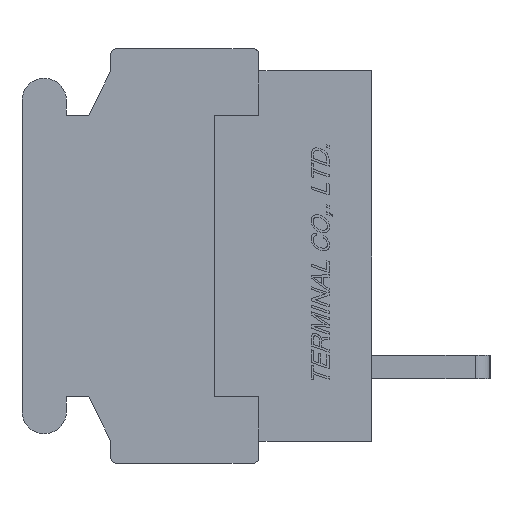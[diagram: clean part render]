
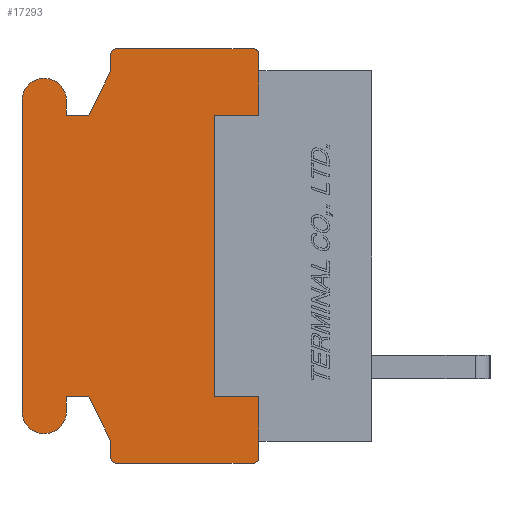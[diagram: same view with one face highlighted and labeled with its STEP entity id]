
A CAD part, left-side view. The second image highlights one B-rep face of the part: STEP entity #17293.
In plain terms, the highlighted planar face has unit normal (-1, 0, 0).
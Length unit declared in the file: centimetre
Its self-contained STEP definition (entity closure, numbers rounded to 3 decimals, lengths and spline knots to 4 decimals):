
#938=CIRCLE('',#29300,0.02);
#939=CIRCLE('',#29304,0.02);
#940=CIRCLE('',#29307,0.02);
#941=CIRCLE('',#29313,0.075);
#942=CIRCLE('',#29316,0.075);
#943=CIRCLE('',#29322,0.02);
#2317=VERTEX_POINT('',#26737);
#2318=VERTEX_POINT('',#26739);
#2319=VERTEX_POINT('',#26743);
#2320=VERTEX_POINT('',#26747);
#2321=VERTEX_POINT('',#26749);
#2322=VERTEX_POINT('',#26753);
#2323=VERTEX_POINT('',#26757);
#2324=VERTEX_POINT('',#26761);
#2325=VERTEX_POINT('',#26765);
#2326=VERTEX_POINT('',#26769);
#2327=VERTEX_POINT('',#26773);
#2328=VERTEX_POINT('',#26777);
#2329=VERTEX_POINT('',#26781);
#2330=VERTEX_POINT('',#26785);
#2331=VERTEX_POINT('',#26789);
#2332=VERTEX_POINT('',#26793);
#2333=VERTEX_POINT('',#26797);
#2334=VERTEX_POINT('',#26801);
#2335=VERTEX_POINT('',#26805);
#2336=VERTEX_POINT('',#26809);
#2337=VERTEX_POINT('',#26815);
#2338=VERTEX_POINT('',#26817);
#2339=VERTEX_POINT('',#26819);
#2340=VERTEX_POINT('',#26821);
#4175=VECTOR('',#21095,1.);
#4177=VECTOR('',#21098,1.);
#4181=VECTOR('',#21107,1.);
#4184=VECTOR('',#21115,1.);
#4186=VECTOR('',#21118,1.);
#4188=VECTOR('',#21121,1.);
#4190=VECTOR('',#21124,1.);
#4193=VECTOR('',#21132,1.);
#4196=VECTOR('',#21140,1.);
#4198=VECTOR('',#21143,1.);
#4200=VECTOR('',#21146,1.);
#4202=VECTOR('',#21149,1.);
#4204=VECTOR('',#21156,1.);
#4205=VECTOR('',#21158,1.);
#4206=VECTOR('',#21159,1.);
#4207=VECTOR('',#21160,1.);
#4208=VECTOR('',#21161,1.);
#4209=VECTOR('',#21162,1.);
#6111=LINE('',#26744,#4175);
#6113=LINE('',#26748,#4177);
#6117=LINE('',#26758,#4181);
#6120=LINE('',#26766,#4184);
#6122=LINE('',#26770,#4186);
#6124=LINE('',#26774,#4188);
#6126=LINE('',#26778,#4190);
#6129=LINE('',#26786,#4193);
#6132=LINE('',#26794,#4196);
#6134=LINE('',#26798,#4198);
#6136=LINE('',#26802,#4200);
#6138=LINE('',#26806,#4202);
#6140=LINE('',#26812,#4204);
#6141=LINE('',#26814,#4205);
#6142=LINE('',#26816,#4206);
#6143=LINE('',#26818,#4207);
#6144=LINE('',#26820,#4208);
#6145=LINE('',#26822,#4209);
#8620=EDGE_CURVE('',#2317,#2318,#938,.T.);
#8623=EDGE_CURVE('',#2319,#2317,#6111,.T.);
#8625=EDGE_CURVE('',#2320,#2321,#6113,.T.);
#8628=EDGE_CURVE('',#2322,#2320,#939,.T.);
#8630=EDGE_CURVE('',#2323,#2322,#6117,.T.);
#8632=EDGE_CURVE('',#2324,#2323,#940,.T.);
#8634=EDGE_CURVE('',#2325,#2324,#6120,.T.);
#8636=EDGE_CURVE('',#2326,#2325,#6122,.T.);
#8638=EDGE_CURVE('',#2327,#2326,#6124,.T.);
#8640=EDGE_CURVE('',#2328,#2327,#6126,.T.);
#8642=EDGE_CURVE('',#2329,#2328,#941,.T.);
#8644=EDGE_CURVE('',#2330,#2329,#6129,.T.);
#8646=EDGE_CURVE('',#2331,#2330,#942,.T.);
#8648=EDGE_CURVE('',#2332,#2331,#6132,.T.);
#8650=EDGE_CURVE('',#2333,#2332,#6134,.T.);
#8652=EDGE_CURVE('',#2334,#2333,#6136,.T.);
#8654=EDGE_CURVE('',#2335,#2334,#6138,.T.);
#8656=EDGE_CURVE('',#2336,#2335,#943,.T.);
#8657=EDGE_CURVE('',#2318,#2336,#6140,.T.);
#8658=EDGE_CURVE('',#2337,#2321,#6141,.T.);
#8659=EDGE_CURVE('',#2319,#2338,#6142,.T.);
#8660=EDGE_CURVE('',#2338,#2339,#6143,.T.);
#8661=EDGE_CURVE('',#2339,#2340,#6144,.T.);
#8662=EDGE_CURVE('',#2340,#2337,#6145,.T.);
#13324=ORIENTED_EDGE('',*,*,#8658,.T.);
#13325=ORIENTED_EDGE('',*,*,#8625,.F.);
#13326=ORIENTED_EDGE('',*,*,#8628,.F.);
#13327=ORIENTED_EDGE('',*,*,#8630,.F.);
#13328=ORIENTED_EDGE('',*,*,#8632,.F.);
#13329=ORIENTED_EDGE('',*,*,#8634,.F.);
#13330=ORIENTED_EDGE('',*,*,#8636,.F.);
#13331=ORIENTED_EDGE('',*,*,#8638,.F.);
#13332=ORIENTED_EDGE('',*,*,#8640,.F.);
#13333=ORIENTED_EDGE('',*,*,#8642,.F.);
#13334=ORIENTED_EDGE('',*,*,#8644,.F.);
#13335=ORIENTED_EDGE('',*,*,#8646,.F.);
#13336=ORIENTED_EDGE('',*,*,#8648,.F.);
#13337=ORIENTED_EDGE('',*,*,#8650,.F.);
#13338=ORIENTED_EDGE('',*,*,#8652,.F.);
#13339=ORIENTED_EDGE('',*,*,#8654,.F.);
#13340=ORIENTED_EDGE('',*,*,#8656,.F.);
#13341=ORIENTED_EDGE('',*,*,#8657,.F.);
#13342=ORIENTED_EDGE('',*,*,#8620,.F.);
#13343=ORIENTED_EDGE('',*,*,#8623,.F.);
#13344=ORIENTED_EDGE('',*,*,#8659,.T.);
#13345=ORIENTED_EDGE('',*,*,#8660,.T.);
#13346=ORIENTED_EDGE('',*,*,#8661,.T.);
#13347=ORIENTED_EDGE('',*,*,#8662,.T.);
#15244=EDGE_LOOP('',(#13324,#13325,#13326,#13327,#13328,#13329,#13330,#13331,
#13332,#13333,#13334,#13335,#13336,#13337,#13338,#13339,#13340,#13341,#13342,
#13343,#13344,#13345,#13346,#13347));
#16296=FACE_BOUND('',#15244,.T.);
#17293=ADVANCED_FACE('',(#16296),#18028,.F.);
#18028=PLANE('',#29324);
#21090=DIRECTION('',(1.,0.,0.));
#21091=DIRECTION('',(0.,0.,-0.02));
#21095=DIRECTION('',(0.,0.,-1.));
#21098=DIRECTION('',(0.,0.,-1.));
#21103=DIRECTION('',(1.,0.,0.));
#21104=DIRECTION('',(0.,0.,-0.02));
#21107=DIRECTION('',(0.,-1.,0.));
#21111=DIRECTION('',(1.,0.,0.));
#21112=DIRECTION('',(0.,0.,-0.02));
#21115=DIRECTION('',(0.,0.,1.));
#21118=DIRECTION('',(0.,-0.447,0.894));
#21121=DIRECTION('',(0.,-1.,0.));
#21124=DIRECTION('',(0.,0.,-1.));
#21128=DIRECTION('',(1.,0.,0.));
#21129=DIRECTION('',(0.,0.,-0.075));
#21132=DIRECTION('',(0.,0.,1.));
#21136=DIRECTION('',(1.,0.,0.));
#21137=DIRECTION('',(0.,0.,-0.075));
#21140=DIRECTION('',(0.,0.,-1.));
#21143=DIRECTION('',(0.,1.,0.));
#21146=DIRECTION('',(0.,0.447,0.894));
#21149=DIRECTION('',(0.,0.,1.));
#21153=DIRECTION('',(1.,0.,0.));
#21154=DIRECTION('',(0.,0.,-0.02));
#21156=DIRECTION('',(0.,1.,0.));
#21157=DIRECTION('',(1.,0.,0.));
#21158=DIRECTION('',(0.,0.,1.));
#21159=DIRECTION('',(0.,0.,1.));
#21160=DIRECTION('',(0.,1.,0.));
#21161=DIRECTION('',(0.,0.,1.));
#21162=DIRECTION('',(0.,-1.,0.));
#26737=CARTESIAN_POINT('',(-0.762,0.38,-0.68));
#26738=CARTESIAN_POINT('',(-0.762,0.4,-0.68));
#26739=CARTESIAN_POINT('',(-0.762,0.4,-0.7));
#26743=CARTESIAN_POINT('',(-0.762,0.38,-0.625));
#26744=CARTESIAN_POINT('',(-0.762,0.38,-0.625));
#26747=CARTESIAN_POINT('',(-0.762,0.38,0.68));
#26748=CARTESIAN_POINT('',(-0.762,0.38,0.68));
#26749=CARTESIAN_POINT('',(-0.762,0.38,0.625));
#26753=CARTESIAN_POINT('',(-0.762,0.4,0.7));
#26754=CARTESIAN_POINT('',(-0.762,0.4,0.68));
#26757=CARTESIAN_POINT('',(-0.762,0.86,0.7));
#26758=CARTESIAN_POINT('',(-0.762,0.86,0.7));
#26761=CARTESIAN_POINT('',(-0.762,0.88,0.68));
#26762=CARTESIAN_POINT('',(-0.762,0.86,0.68));
#26765=CARTESIAN_POINT('',(-0.762,0.88,0.625));
#26766=CARTESIAN_POINT('',(-0.762,0.88,0.625));
#26769=CARTESIAN_POINT('',(-0.762,0.955,0.475));
#26770=CARTESIAN_POINT('',(-0.762,0.955,0.475));
#26773=CARTESIAN_POINT('',(-0.762,1.03,0.475));
#26774=CARTESIAN_POINT('',(-0.762,1.03,0.475));
#26777=CARTESIAN_POINT('',(-0.762,1.03,0.525));
#26778=CARTESIAN_POINT('',(-0.762,1.03,0.525));
#26781=CARTESIAN_POINT('',(-0.762,1.18,0.525));
#26782=CARTESIAN_POINT('',(-0.762,1.105,0.525));
#26785=CARTESIAN_POINT('',(-0.762,1.18,-0.525));
#26786=CARTESIAN_POINT('',(-0.762,1.18,-0.525));
#26789=CARTESIAN_POINT('',(-0.762,1.03,-0.525));
#26790=CARTESIAN_POINT('',(-0.762,1.105,-0.525));
#26793=CARTESIAN_POINT('',(-0.762,1.03,-0.475));
#26794=CARTESIAN_POINT('',(-0.762,1.03,-0.475));
#26797=CARTESIAN_POINT('',(-0.762,0.955,-0.475));
#26798=CARTESIAN_POINT('',(-0.762,0.955,-0.475));
#26801=CARTESIAN_POINT('',(-0.762,0.88,-0.625));
#26802=CARTESIAN_POINT('',(-0.762,0.88,-0.625));
#26805=CARTESIAN_POINT('',(-0.762,0.88,-0.68));
#26806=CARTESIAN_POINT('',(-0.762,0.88,-0.68));
#26809=CARTESIAN_POINT('',(-0.762,0.86,-0.7));
#26810=CARTESIAN_POINT('',(-0.762,0.86,-0.68));
#26812=CARTESIAN_POINT('',(-0.762,0.4,-0.7));
#26813=CARTESIAN_POINT('',(-0.762,0.6059,0.));
#26814=CARTESIAN_POINT('',(-0.762,0.38,0.475));
#26815=CARTESIAN_POINT('',(-0.762,0.38,0.475));
#26816=CARTESIAN_POINT('',(-0.762,0.38,-0.625));
#26817=CARTESIAN_POINT('',(-0.762,0.38,-0.475));
#26818=CARTESIAN_POINT('',(-0.762,0.38,-0.475));
#26819=CARTESIAN_POINT('',(-0.762,0.53,-0.475));
#26820=CARTESIAN_POINT('',(-0.762,0.53,-0.475));
#26821=CARTESIAN_POINT('',(-0.762,0.53,0.475));
#26822=CARTESIAN_POINT('',(-0.762,0.53,0.475));
#29300=AXIS2_PLACEMENT_3D('',#26738,#21090,#21091);
#29304=AXIS2_PLACEMENT_3D('',#26754,#21103,#21104);
#29307=AXIS2_PLACEMENT_3D('',#26762,#21111,#21112);
#29313=AXIS2_PLACEMENT_3D('',#26782,#21128,#21129);
#29316=AXIS2_PLACEMENT_3D('',#26790,#21136,#21137);
#29322=AXIS2_PLACEMENT_3D('',#26810,#21153,#21154);
#29324=AXIS2_PLACEMENT_3D('',#26813,#21157,$);
